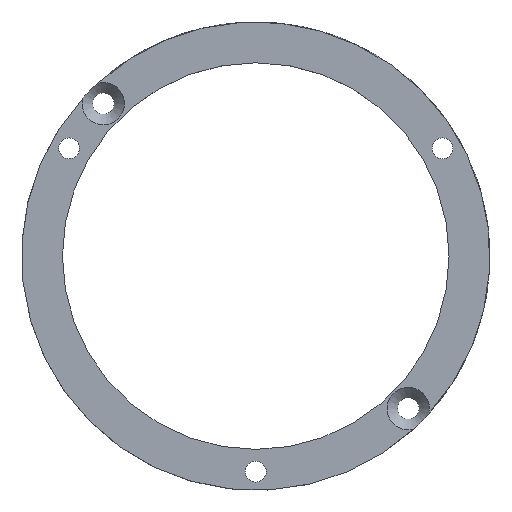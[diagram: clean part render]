
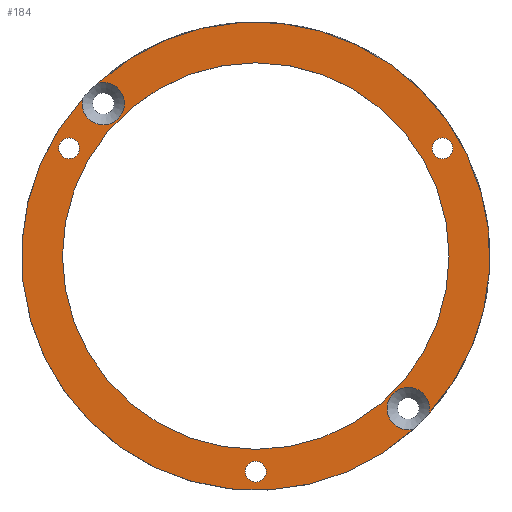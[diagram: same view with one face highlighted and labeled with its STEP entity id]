
A CAD part, top view. The second image highlights one B-rep face of the part: STEP entity #184.
In plain terms, the highlighted planar face has unit normal (0, 0, 1).
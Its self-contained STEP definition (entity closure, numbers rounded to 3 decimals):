
#13=PLANE($,#210);
#26=FACE_BOUND($,#63,.T.);
#27=FACE_BOUND($,#64,.T.);
#28=FACE_BOUND($,#65,.T.);
#29=FACE_BOUND($,#66,.T.);
#30=FACE_BOUND($,#67,.T.);
#63=EDGE_LOOP($,(#148));
#64=EDGE_LOOP($,(#149));
#65=EDGE_LOOP($,(#150));
#66=EDGE_LOOP($,(#151,#152,#153,#154));
#67=EDGE_LOOP($,(#155));
#80=CIRCLE($,#193,1.4);
#82=CIRCLE($,#196,1.4);
#84=CIRCLE($,#199,1.4);
#85=CIRCLE($,#201,2.85);
#88=CIRCLE($,#206,2.85);
#91=CIRCLE($,#211,31.5);
#92=CIRCLE($,#212,31.5);
#93=CIRCLE($,#213,26.);
#97=VERTEX_POINT($,#281);
#99=VERTEX_POINT($,#286);
#101=VERTEX_POINT($,#291);
#102=VERTEX_POINT($,#294);
#103=VERTEX_POINT($,#295);
#106=VERTEX_POINT($,#313);
#107=VERTEX_POINT($,#314);
#110=VERTEX_POINT($,#334);
#114=EDGE_CURVE($,#97,#97,#80,.T.);
#116=EDGE_CURVE($,#99,#99,#82,.T.);
#118=EDGE_CURVE($,#101,#101,#84,.T.);
#120=EDGE_CURVE($,#103,#102,#85,.T.);
#124=EDGE_CURVE($,#107,#106,#88,.T.);
#127=EDGE_CURVE($,#107,#102,#91,.T.);
#128=EDGE_CURVE($,#103,#106,#92,.T.);
#129=EDGE_CURVE($,#110,#110,#93,.T.);
#148=ORIENTED_EDGE($,*,*,#114,.T.);
#149=ORIENTED_EDGE($,*,*,#116,.T.);
#150=ORIENTED_EDGE($,*,*,#118,.T.);
#151=ORIENTED_EDGE($,*,*,#120,.T.);
#152=ORIENTED_EDGE($,*,*,#127,.F.);
#153=ORIENTED_EDGE($,*,*,#124,.T.);
#154=ORIENTED_EDGE($,*,*,#128,.F.);
#155=ORIENTED_EDGE($,*,*,#129,.T.);
#184=ADVANCED_FACE($,(#26,#27,#28,#29,#30),#13,.F.);
#193=AXIS2_PLACEMENT_3D($,#282,#225,#226);
#196=AXIS2_PLACEMENT_3D($,#287,#231,#232);
#199=AXIS2_PLACEMENT_3D($,#292,#237,#238);
#201=AXIS2_PLACEMENT_3D($,#306,#241,#242);
#206=AXIS2_PLACEMENT_3D($,#325,#251,#252);
#210=AXIS2_PLACEMENT_3D($,#331,#259,#260);
#211=AXIS2_PLACEMENT_3D($,#332,#261,#262);
#212=AXIS2_PLACEMENT_3D($,#333,#263,#264);
#213=AXIS2_PLACEMENT_3D($,#335,#265,#266);
#225=DIRECTION('center_axis',(0.,0.,-1.));
#226=DIRECTION('ref_axis',(1.,0.,0.));
#231=DIRECTION('center_axis',(0.,0.,-1.));
#232=DIRECTION('ref_axis',(1.,0.,0.));
#237=DIRECTION('center_axis',(0.,0.,-1.));
#238=DIRECTION('ref_axis',(1.,0.,0.));
#241=DIRECTION('center_axis',(0.,0.,-1.));
#242=DIRECTION('ref_axis',(1.,0.,0.));
#251=DIRECTION('center_axis',(0.,0.,-1.));
#252=DIRECTION('ref_axis',(1.,0.,0.));
#259=DIRECTION('center_axis',(0.,0.,-1.));
#260=DIRECTION('ref_axis',(-1.,0.,0.));
#261=DIRECTION('center_axis',(0.,0.,-1.));
#262=DIRECTION('ref_axis',(-1.,0.,0.));
#263=DIRECTION('center_axis',(0.,0.,-1.));
#264=DIRECTION('ref_axis',(-1.,0.,0.));
#265=DIRECTION('center_axis',(0.,0.,-1.));
#266=DIRECTION('ref_axis',(-1.,0.,0.));
#281=CARTESIAN_POINT('',(-23.715,14.5,1.5));
#282=CARTESIAN_POINT('Origin',(-25.115,14.5,1.5));
#286=CARTESIAN_POINT('',(26.515,14.5,1.5));
#287=CARTESIAN_POINT('Origin',(25.115,14.5,1.5));
#291=CARTESIAN_POINT('',(1.4,-29.,1.5));
#292=CARTESIAN_POINT('Origin',(0.,-29.,1.5));
#294=CARTESIAN_POINT('',(-23.259,21.243,1.5));
#295=CARTESIAN_POINT('',(-21.243,23.259,1.5));
#306=CARTESIAN_POINT('Origin',(-20.506,20.506,1.5));
#313=CARTESIAN_POINT('',(23.259,-21.243,1.5));
#314=CARTESIAN_POINT('',(21.243,-23.259,1.5));
#325=CARTESIAN_POINT('Origin',(20.506,-20.506,1.5));
#331=CARTESIAN_POINT('Origin',(0.,0.,1.5));
#332=CARTESIAN_POINT('Origin',(0.,0.,1.5));
#333=CARTESIAN_POINT('Origin',(0.,0.,1.5));
#334=CARTESIAN_POINT('',(26.,0.,1.5));
#335=CARTESIAN_POINT('Origin',(0.,0.,1.5));
